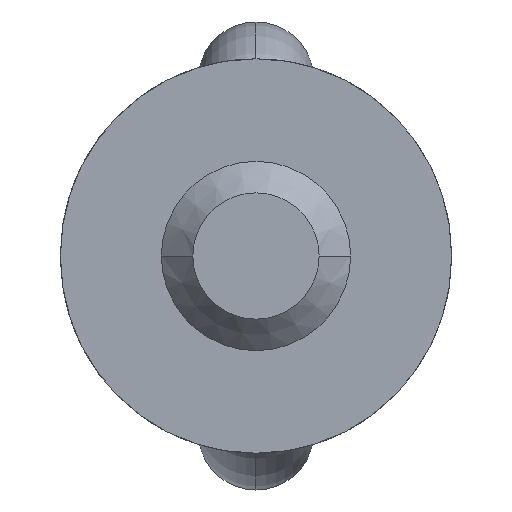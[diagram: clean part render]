
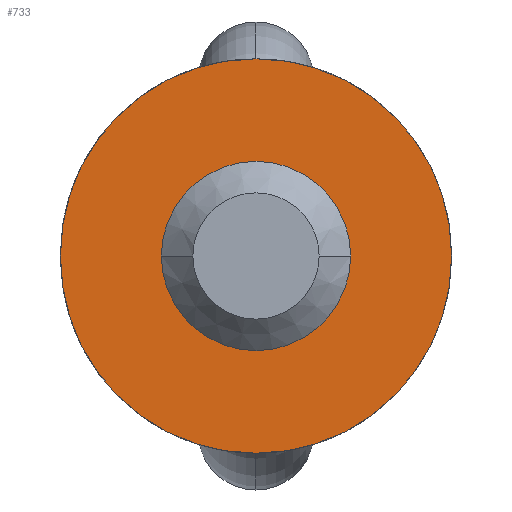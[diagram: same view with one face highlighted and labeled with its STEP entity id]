
A CAD part, front view. The second image highlights one B-rep face of the part: STEP entity #733.
In plain terms, the highlighted planar face has unit normal (0, -1, 0).
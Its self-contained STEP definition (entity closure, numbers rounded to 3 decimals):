
#733=ADVANCED_FACE('',(#1501,#1502),#1503,.F.);
#1501=FACE_OUTER_BOUND('',#5609,.T.);
#1502=FACE_BOUND('',#5610,.T.);
#1503=PLANE('',#5611);
#5609=EDGE_LOOP('',(#9702,#9703,#9704,#9705));
#5610=EDGE_LOOP('',(#9706,#9707,#9708));
#5611=AXIS2_PLACEMENT_3D('',#9709,#9710,#9711);
#9702=ORIENTED_EDGE('',*,*,#10925,.F.);
#9703=ORIENTED_EDGE('',*,*,#10875,.T.);
#9704=ORIENTED_EDGE('',*,*,#10926,.T.);
#9705=ORIENTED_EDGE('',*,*,#10863,.F.);
#9706=ORIENTED_EDGE('',*,*,#10896,.F.);
#9707=ORIENTED_EDGE('',*,*,#10895,.F.);
#9708=ORIENTED_EDGE('',*,*,#10921,.F.);
#9709=CARTESIAN_POINT('',(0.0,-66.8,0.0));
#9710=DIRECTION('',(0.0,1.0,0.0));
#9711=DIRECTION('',(1.0,0.0,-0.0));
#10863=EDGE_CURVE('',#12234,#12237,#12238,.T.);
#10875=EDGE_CURVE('',#12260,#12257,#12261,.T.);
#10895=EDGE_CURVE('',#12295,#12297,#12298,.T.);
#10896=EDGE_CURVE('',#12297,#12292,#12299,.T.);
#10921=EDGE_CURVE('',#12292,#12295,#12332,.T.);
#10925=EDGE_CURVE('',#12260,#12234,#12336,.T.);
#10926=EDGE_CURVE('',#12257,#12237,#12337,.T.);
#12234=VERTEX_POINT('',#19256);
#12237=VERTEX_POINT('',#19260);
#12238=CIRCLE('',#19261,37.182);
#12257=VERTEX_POINT('',#19389);
#12260=VERTEX_POINT('',#19393);
#12261=CIRCLE('',#19394,37.182);
#12292=VERTEX_POINT('',#19555);
#12295=VERTEX_POINT('',#19558);
#12297=VERTEX_POINT('',#19560);
#12298=CIRCLE('',#19561,17.5);
#12299=CIRCLE('',#19562,17.5);
#12332=CIRCLE('',#19601,17.5);
#12336=CIRCLE('',#19605,37.182);
#12337=CIRCLE('',#19606,37.182);
#19256=CARTESIAN_POINT('',(0.,-66.8,37.5));
#19260=CARTESIAN_POINT('',(37.18,-66.8,0.0));
#19261=AXIS2_PLACEMENT_3D('',#22030,#22031,#22032);
#19389=CARTESIAN_POINT('',(0.,-66.8,-37.5));
#19393=CARTESIAN_POINT('',(-37.18,-66.8,0.0));
#19394=AXIS2_PLACEMENT_3D('',#22039,#22040,#22041);
#19555=CARTESIAN_POINT('',(0.,-66.8,17.5));
#19558=CARTESIAN_POINT('',(0.,-66.8,-17.5));
#19560=CARTESIAN_POINT('',(17.5,-66.8,0.));
#19561=AXIS2_PLACEMENT_3D('',#22069,#22070,#22071);
#19562=AXIS2_PLACEMENT_3D('',#22072,#22073,#22074);
#19601=AXIS2_PLACEMENT_3D('',#22108,#22109,#22110);
#19605=AXIS2_PLACEMENT_3D('',#22114,#22115,#22116);
#19606=AXIS2_PLACEMENT_3D('',#22117,#22118,#22119);
#22030=CARTESIAN_POINT('',(0.,-66.8,0.318));
#22031=DIRECTION('',(0.0,1.0,0.0));
#22032=DIRECTION('',(0.0,0.0,1.0));
#22039=CARTESIAN_POINT('',(0.,-66.8,-0.318));
#22040=DIRECTION('',(0.0,-1.0,0.0));
#22041=DIRECTION('',(0.0,0.0,-1.0));
#22069=CARTESIAN_POINT('',(0.0,-66.8,0.0));
#22070=DIRECTION('',(0.0,-1.0,0.0));
#22071=DIRECTION('',(-1.0,0.0,0.0));
#22072=CARTESIAN_POINT('',(0.0,-66.8,0.0));
#22073=DIRECTION('',(0.0,-1.0,0.0));
#22074=DIRECTION('',(-1.0,0.0,0.0));
#22108=CARTESIAN_POINT('',(0.0,-66.8,0.0));
#22109=DIRECTION('',(0.0,-1.0,0.0));
#22110=DIRECTION('',(-1.0,0.0,0.0));
#22114=CARTESIAN_POINT('',(0.,-66.8,0.318));
#22115=DIRECTION('',(0.0,1.0,0.0));
#22116=DIRECTION('',(0.0,0.0,1.0));
#22117=CARTESIAN_POINT('',(0.,-66.8,-0.318));
#22118=DIRECTION('',(0.0,-1.0,0.0));
#22119=DIRECTION('',(0.0,0.0,-1.0));
